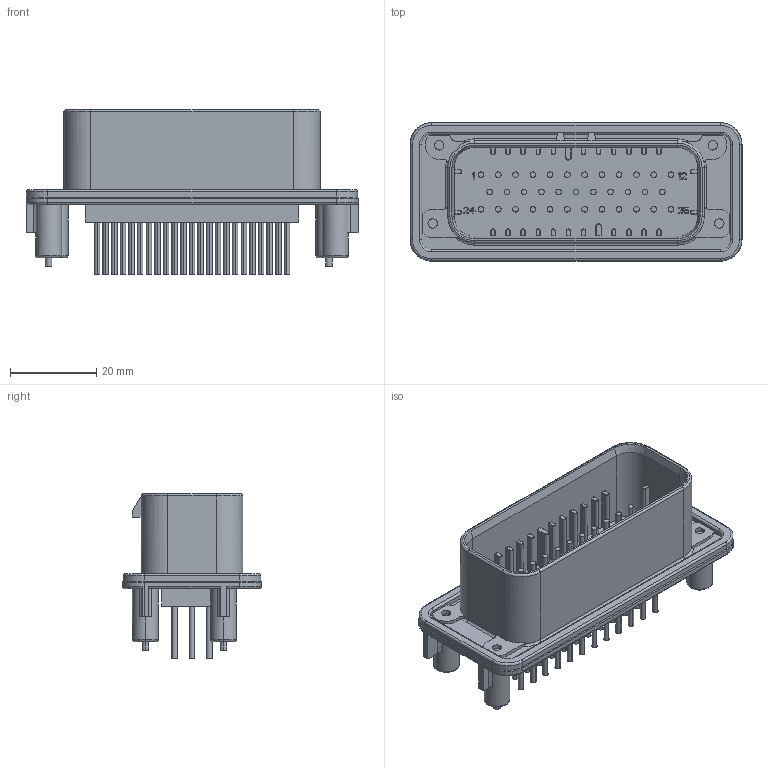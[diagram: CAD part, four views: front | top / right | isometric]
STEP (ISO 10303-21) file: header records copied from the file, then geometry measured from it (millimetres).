
FILE_DESCRIPTION((''),'2;1');
FILE_NAME('C-2437606-1','2023-12-18T03:23:50',('workeradm'),('TE Connectivity Ltd.'),'CREO PARAMETRIC BY PTC INC, 2021072','CREO PARAMETRIC BY PTC INC, 2021072','');
FILE_SCHEMA(('AUTOMOTIVE_DESIGN { 1 0 10303 214 1 1 1 1 }'));
Length unit declared in the file: millimetre
Products named in the file (1): C-2437606-1
Bounding box: 76.9 x 32.1 x 38.08 mm (x, y, z)
Volume: 15879 mm3; surface area: 17036.9 mm2
Topology: 1 solids, 1 shells, 879 faces, 2189 edges, 1400 vertices
Faces by surface type: plane 423, cylinder 338, torus 114, cone 4
Entity records: 26403 total; most frequent: CARTESIAN_POINT 4804, DIRECTION 4695, ORIENTED_EDGE 4378, EDGE_CURVE 2189, AXIS2_PLACEMENT_3D 1689, VERTEX_POINT 1400, VECTOR 1317, LINE 1317
